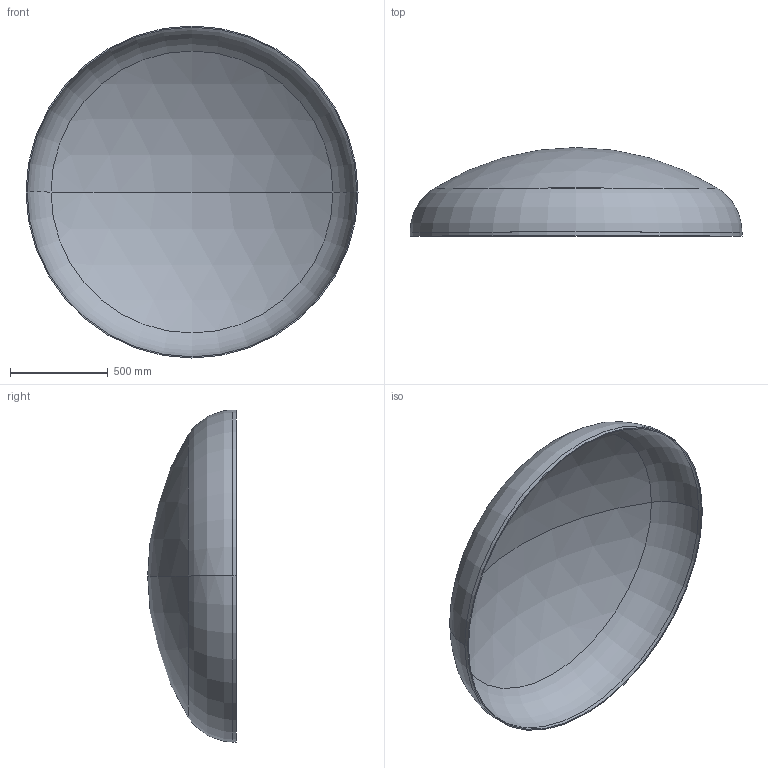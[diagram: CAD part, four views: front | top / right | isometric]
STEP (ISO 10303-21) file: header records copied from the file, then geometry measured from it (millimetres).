
FILE_DESCRIPTION (( 'STEP AP203' ), '1' );
FILE_NAME ('DIN 28013 Korbbogenform_-_Boden DIN 28013 - 1700 x 20 - I - s=6.step', '2016-07-01T11:35:04', ( '' ), ( '' ), 'SwSTEP 2.0', 'SolidWorks 2013', '' );
FILE_SCHEMA (( 'CONFIG_CONTROL_DESIGN' ));
Length unit declared in the file: millimetre
Products named in the file (1): DIN 28013 Korbbogenform_-_Boden DIN 28013 - 1700 x 20 - I - s=6
Bounding box: 1700 x 453.83 x 1700 mm (x, y, z)
Volume: 19388693.5 mm3; surface area: 6494901.7 mm2
Topology: 1 solids, 1 shells, 13 faces, 24 edges, 14 vertices
Faces by surface type: torus 4, cylinder 4, sphere 4, plane 1
Entity records: 407 total; most frequent: DIRECTION 72, CARTESIAN_POINT 52, ORIENTED_EDGE 48, AXIS2_PLACEMENT_3D 34, EDGE_CURVE 24, CIRCLE 20, VERTEX_POINT 14, EDGE_LOOP 14
